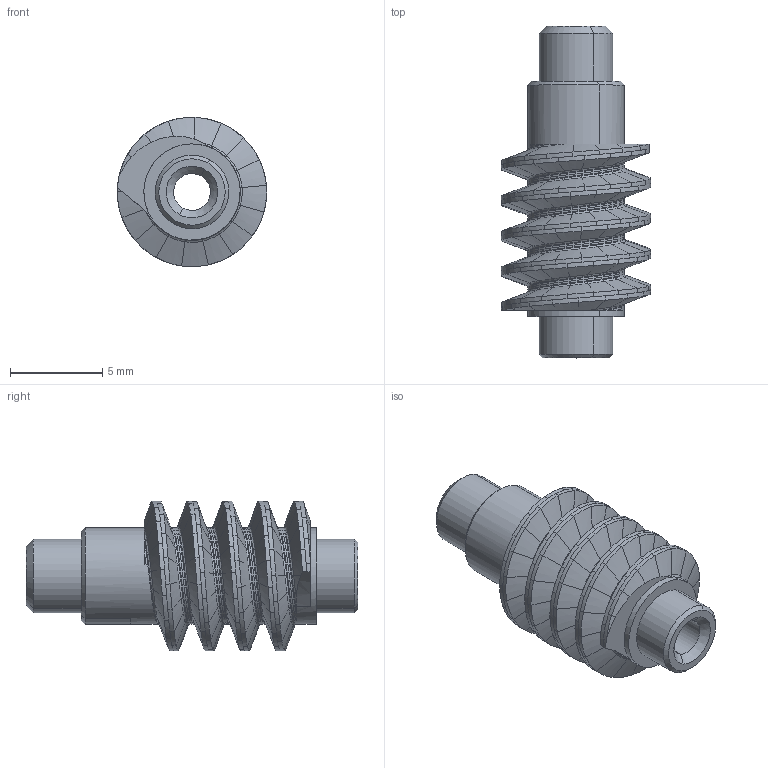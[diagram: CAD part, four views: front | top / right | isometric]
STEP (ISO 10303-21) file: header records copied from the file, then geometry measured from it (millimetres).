
FILE_DESCRIPTION(('CATIA V5 STEP Exchange'),'2;1');
FILE_NAME('C:\model\lock-001.45.028.41_1.1.1.1.stp','2022-08-26T10:53:52+00:00',('none'),('none'),'CATIA Version 5 Release 19 SP 8 (IN-10)','CATIA V5 STEP AP214','none');
FILE_SCHEMA(('AUTOMOTIVE_DESIGN { 1 0 10303 214 1 1 1 1 }'));
Length unit declared in the file: millimetre
Products named in the file (1): lock-001.45.028.41_1.1.1.1
Bounding box: 8.1 x 18 x 8.1 mm (x, y, z)
Volume: 408.5 mm3; surface area: 647.6 mm2
Topology: 1 solids, 1 shells, 803 faces, 1752 edges, 953 vertices
Faces by surface type: bspline 773, cylinder 12, cone 10, plane 8
Entity records: 28124 total; most frequent: CARTESIAN_POINT 16688, ORIENTED_EDGE 3504, EDGE_CURVE 1752, B_SPLINE_CURVE_WITH_KNOTS 1670, VERTEX_POINT 953, EDGE_LOOP 807, ADVANCED_FACE 803, FACE_OUTER_BOUND 803
